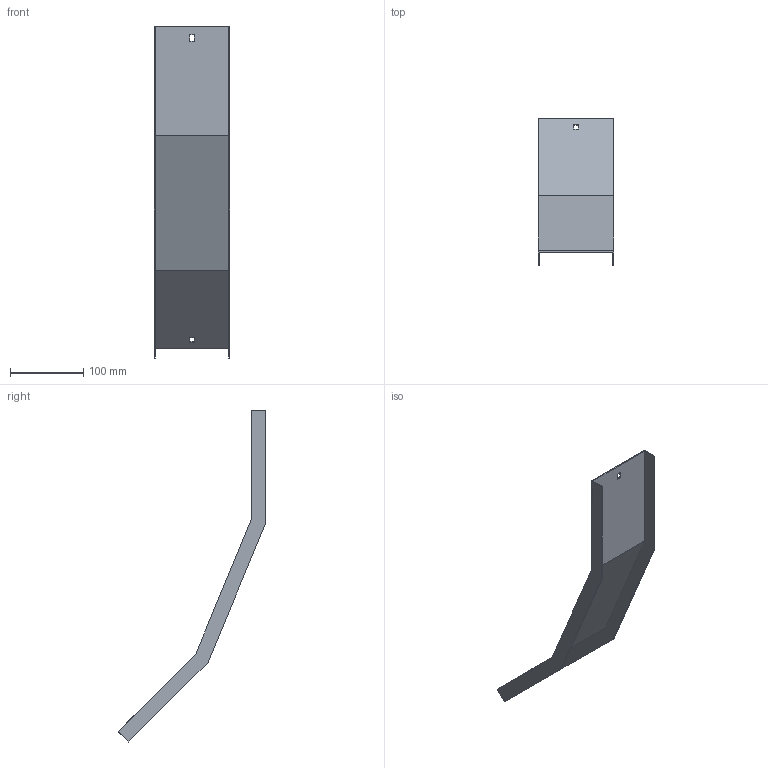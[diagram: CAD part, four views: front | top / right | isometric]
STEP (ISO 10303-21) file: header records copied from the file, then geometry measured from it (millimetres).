
FILE_DESCRIPTION (( 'STEP AP214' ), '1' );
FILE_NAME ('A2X31N5R100X.step', '2025-03-20T09:41:29', ( '' ), ( '' ), 'SwSTEP 2.0', 'SolidWorks 2023', '' );
FILE_SCHEMA (( 'AUTOMOTIVE_DESIGN' ));
Length unit declared in the file: millimetre
Products named in the file (1): A2X31N5R100X
Bounding box: 103 x 201.89 x 453.26 mm (x, y, z)
Volume: 104992.4 mm3; surface area: 142043.1 mm2
Topology: 1 solids, 1 shells, 26 faces, 72 edges, 48 vertices
Faces by surface type: plane 26
Entity records: 847 total; most frequent: CARTESIAN_POINT 147, ORIENTED_EDGE 144, DIRECTION 126, LINE 72, VECTOR 72, EDGE_CURVE 72, VERTEX_POINT 48, EDGE_LOOP 30
